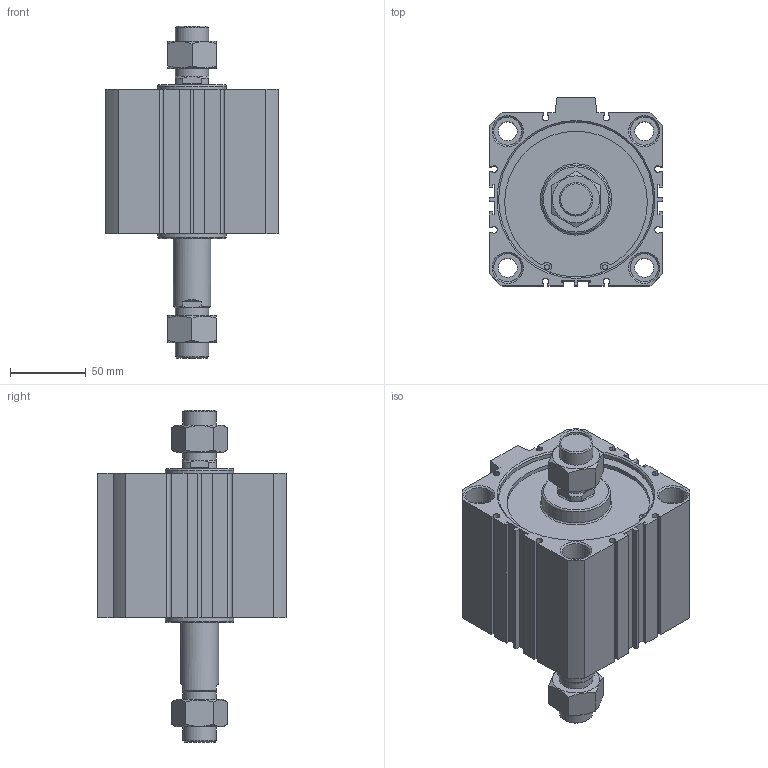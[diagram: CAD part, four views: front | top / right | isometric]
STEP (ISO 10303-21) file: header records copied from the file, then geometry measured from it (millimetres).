
FILE_DESCRIPTION((''),'2;1');
FILE_NAME('I:\3D電子目錄\氣缸\JDD\JDD-BS\JDD100-BS\JDD100x40-BS.stp','2007-02-28T08:51:17',('662F206'),(''),'Autodesk Inventor 10','Autodesk Inventor 10','');
FILE_SCHEMA(('AUTOMOTIVE_DESIGN { 1 0 10303 214 1 1 1 1 }'));
Length unit declared in the file: millimetre
Products named in the file (3): JDD100-BS; R 形環 100
Assembly tree (3 placements, depth 2):
  JDD100-BS
    JDD100-BS
    R 形環 100  x2
Bounding box: 114 x 124 x 218.7 mm (x, y, z)
Volume: 1135644.4 mm3; surface area: 131722 mm2
Topology: 3 solids, 3 shells, 219 faces, 538 edges, 351 vertices
Faces by surface type: plane 130, cylinder 59, cone 26, bspline 2, torus 2
Full cylindrical faces by diameter (mm): 3.1 x4, 3.5 x2, 12.5 x4, 18.5 x8, 22 x4, 25 x1, 45 x2, 102 x4, 106 x2
Entity records: 5905 total; most frequent: CARTESIAN_POINT 1143, DIRECTION 978, ORIENTED_EDGE 894, EDGE_CURVE 447, AXIS2_PLACEMENT_3D 356, VERTEX_POINT 323, EDGE_LOOP 298, VECTOR 266
